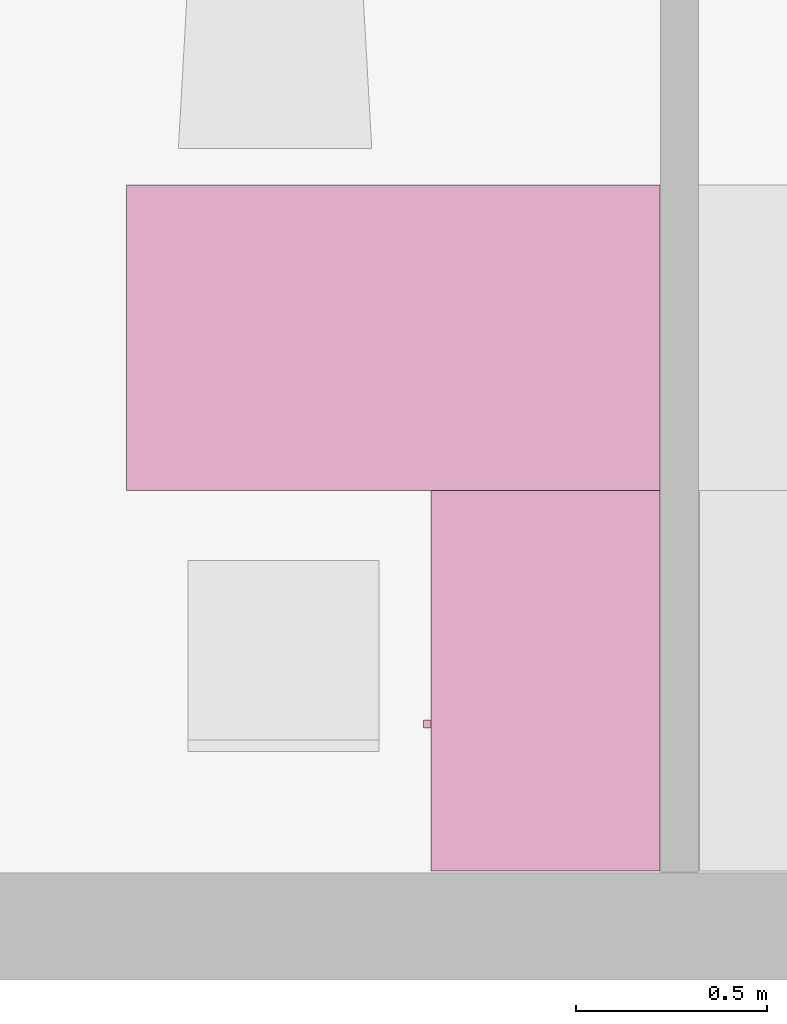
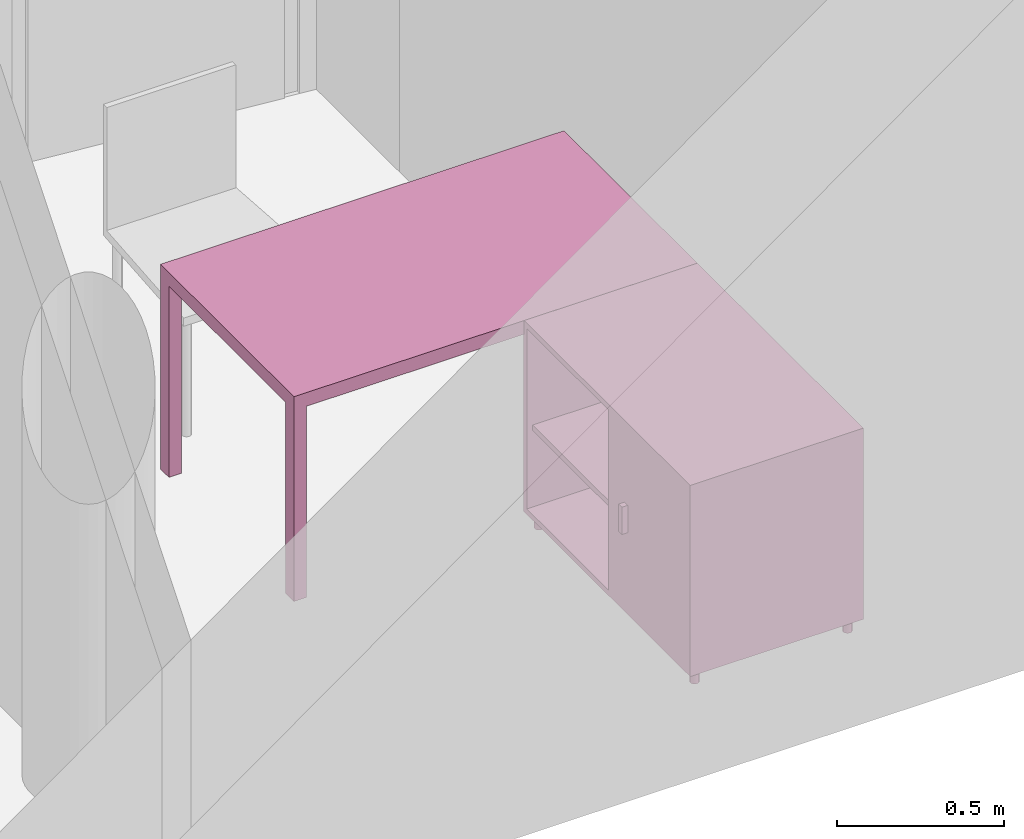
"""IFC4 building model written with IfcOpenShell, lengths in metres."""

from ifc_helpers import new_model, entity, si_unit, converted_unit, derived_unit, frame, origin, place, context, subcontext, project, spatial, faceted_brep, element, save


model = new_model("IFC4")

# Units and contexts
model_context = context("Model", 3, precision=1e-05, world=origin())
body_context = subcontext(model_context, "Body", "Model", "MODEL_VIEW")
ifc_project = project(units=[si_unit("LENGTHUNIT", "METRE"), si_unit("AREAUNIT", "SQUARE_METRE"), si_unit("VOLUMEUNIT", "CUBIC_METRE"), si_unit("MASSUNIT", "GRAM", prefix="KILO"), converted_unit("PLANEANGLEUNIT", "DEGREE", entity("IfcPlaneAngleMeasure", 0.0174532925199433), si_unit("PLANEANGLEUNIT", "RADIAN"), dimensions=[0, 0, 0, 0, 0, 0, 0]), derived_unit("THERMALTRANSMITTANCEUNIT", [(si_unit("POWERUNIT", "WATT"), 1), (si_unit("THERMODYNAMICTEMPERATUREUNIT", "KELVIN"), -1), (si_unit("LENGTHUNIT", "METRE"), -2)]), derived_unit("VOLUMETRICFLOWRATEUNIT", [(si_unit("LENGTHUNIT", "METRE"), 3), (converted_unit("TIMEUNIT", "hour", entity("IfcTimeMeasure", 3600.0), si_unit("TIMEUNIT", "SECOND"), dimensions=[0, 0, 1, 0, 0, 0, 0]), -1), (si_unit("LENGTHUNIT", "METRE"), -1)])], contexts=[model_context])

# Building, storeys
building_placement = place(None, origin())
building = spatial("IfcBuilding", under=ifc_project, at=building_placement, Name="HABITATGE PLURIFAMILIAR", CompositionType="ELEMENT")
storey_1_placement = place(building_placement, frame((0.0, 0.0, 6.25)))
storey_1 = spatial("IfcBuildingStorey", under=building, at=storey_1_placement, Name="PLANTA PRIMERA", CompositionType="ELEMENT", Elevation=6.25)
storey_2_placement = place(storey_1_placement, frame((0.0, 0.0, 3.35)))
storey_2 = spatial("IfcBuildingStorey", under=storey_1, at=storey_2_placement, Name="NOU", CompositionType="PARTIAL")

# Furniture
furniture_1_placement = place(storey_2_placement, frame((401.971734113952, 14.1227210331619, -3.35)))
element("IfcFurniture", 1, at=furniture_1_placement, inside=storey_2, Name="Taula 140X80_P1", context=body_context, shape_type="Brep", body=[
    faceted_brep([(0.04375, 0.750069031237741, 0.0), (0.04375, 0.800069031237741, 0.0), (0.0, 0.800069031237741, 0.0), (0.0, 0.750069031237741, 0.0), (0.04375, 0.800069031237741, 0.7), (0.04375, 0.750069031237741, 0.7), (0.0, 0.750069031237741, 0.7), (0.0, 0.800069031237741, 0.7)], [[[0, 1, 2, 3]], [[4, 5, 6, 7]], [[1, 0, 5, 4]], [[2, 1, 4, 7]], [[3, 2, 7, 6]], [[0, 3, 6, 5]]], orient=[[False], [False], [False], [False], [False], [False]]),
    faceted_brep([(0.04375, 0.0, 0.0), (0.04375, 0.05, 0.0), (0.0, 0.05, 0.0), (0.0, 0.0, 0.0), (0.04375, 0.05, 0.7), (0.04375, 0.0, 0.7), (0.0, 0.0, 0.7), (0.0, 0.05, 0.7)], [[[0, 1, 2, 3]], [[4, 5, 6, 7]], [[1, 0, 5, 4]], [[2, 1, 4, 7]], [[3, 2, 7, 6]], [[0, 3, 6, 5]]], orient=[[False], [False], [False], [False], [False], [False]]),
    faceted_brep([(1.39732768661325, 0.0, 0.7), (1.39732768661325, 0.800069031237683, 0.7), (0.0, 0.800069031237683, 0.7), (0.0, 0.0, 0.7), (1.39732768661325, 0.800069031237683, 0.75), (1.39732768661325, 0.0, 0.75), (0.0, 0.0, 0.75), (0.0, 0.800069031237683, 0.75)], [[[0, 1, 2, 3]], [[4, 5, 6, 7]], [[1, 0, 5, 4]], [[2, 1, 4, 7]], [[3, 2, 7, 6]], [[0, 3, 6, 5]]], orient=[[False], [False], [False], [False], [False], [False]]),
    faceted_brep([(1.39732768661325, 0.750069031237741, 0.0), (1.39732768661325, 0.800069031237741, 0.0), (1.35357768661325, 0.800069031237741, 0.0), (1.35357768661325, 0.750069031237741, 0.0), (1.39732768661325, 0.800069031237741, 0.7), (1.39732768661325, 0.750069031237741, 0.7), (1.35357768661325, 0.750069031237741, 0.7), (1.35357768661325, 0.800069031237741, 0.7)], [[[0, 1, 2, 3]], [[4, 5, 6, 7]], [[1, 0, 5, 4]], [[2, 1, 4, 7]], [[3, 2, 7, 6]], [[0, 3, 6, 5]]], orient=[[False], [False], [False], [False], [False], [False]]),
    faceted_brep([(1.39732768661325, 0.0, 0.0), (1.39732768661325, 0.05, 0.0), (1.35357768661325, 0.05, 0.0), (1.35357768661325, 0.0, 0.0), (1.39732768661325, 0.05, 0.7), (1.39732768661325, 0.0, 0.7), (1.35357768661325, 0.0, 0.7), (1.35357768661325, 0.05, 0.7)], [[[0, 1, 2, 3]], [[4, 5, 6, 7]], [[1, 0, 5, 4]], [[2, 1, 4, 7]], [[3, 2, 7, 6]], [[0, 3, 6, 5]]], orient=[[False], [False], [False], [False], [False], [False]]),
])
furniture_2_placement = place(storey_2_placement, frame((402.749061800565, 13.1267471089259, -3.35)))
element("IfcFurniture", 2, at=furniture_2_placement, inside=storey_2, Name="Taula 100X60_P1", context=body_context, shape_type="Brep", body=[
    faceted_brep([(0.620000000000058, 1.00000000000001, 0.05), (0.620000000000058, 1.00000000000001, 0.07), (0.02, 1.00000000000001, 0.07), (0.02, 1.00000000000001, 0.05), (0.02, 0.0, 0.07), (0.02, 0.0, 0.05), (0.620000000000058, 0.0, 0.07), (0.620000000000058, 0.0, 0.05)], [[[0, 1, 2, 3]], [[3, 2, 4, 5]], [[5, 4, 6, 7]], [[7, 6, 1, 0]], [[0, 3, 5, 7]], [[1, 6, 4, 2]]], orient=[[False], [False], [False], [False], [False], [False]]),
    faceted_brep([(0.04, 1.00000000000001, 0.35), (0.04, 0.0, 0.35), (0.62, 0.0, 0.35), (0.62, 1.00000000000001, 0.35), (0.62, 1.00000000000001, 0.37), (0.62, 0.0, 0.37), (0.04, 0.0, 0.37), (0.04, 1.00000000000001, 0.37)], [[[0, 1, 2, 3]], [[4, 5, 6, 7]], [[3, 4, 7, 0]], [[2, 5, 4, 3]], [[1, 6, 5, 2]], [[0, 7, 6, 1]]], orient=[[False], [False], [False], [False], [False], [False]]),
    faceted_brep([(0.04, 0.490000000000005, 0.75), (0.02, 0.490000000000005, 0.75), (0.02, 0.490000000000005, 0.05), (0.04, 0.490000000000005, 0.05), (0.02, 0.0, 0.05), (0.04, 0.0, 0.05), (0.02, 0.0, 0.75), (0.04, 0.0, 0.75)], [[[0, 1, 2, 3]], [[3, 2, 4, 5]], [[5, 4, 6, 7]], [[7, 6, 1, 0]], [[0, 3, 5, 7]], [[1, 6, 4, 2]]], orient=[[False], [False], [False], [False], [False], [False]]),
    faceted_brep([(0.62, 0.980000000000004, 0.75), (0.62, 1.0, 0.75), (0.620000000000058, 1.0, 0.0499999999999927), (0.620000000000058, 0.980000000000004, 0.0499999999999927), (0.02, 1.00000000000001, 0.05), (0.02, 0.980000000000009, 0.05), (0.02, 1.00000000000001, 0.75), (0.02, 0.980000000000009, 0.75)], [[[0, 1, 2, 3]], [[3, 2, 4, 5]], [[5, 4, 6, 7]], [[7, 6, 1, 0]], [[0, 3, 5, 7]], [[1, 6, 4, 2]]], orient=[[False], [False], [False], [False], [False], [False]]),
    faceted_brep([(0.62, 0.470000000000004, 0.75), (0.62, 0.490000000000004, 0.75), (0.620000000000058, 0.490000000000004, 0.0499999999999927), (0.620000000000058, 0.470000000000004, 0.0499999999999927), (0.02, 0.490000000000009, 0.05), (0.02, 0.470000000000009, 0.05), (0.02, 0.490000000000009, 0.75), (0.02, 0.470000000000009, 0.75)], [[[0, 1, 2, 3]], [[3, 2, 4, 5]], [[5, 4, 6, 7]], [[7, 6, 1, 0]], [[0, 3, 5, 7]], [[1, 6, 4, 2]]], orient=[[False], [False], [False], [False], [False], [False]]),
    faceted_brep([(0.620000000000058, 0.47, 0.75000000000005), (0.620000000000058, 0.490000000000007, 0.75000000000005), (0.620000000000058, 0.490000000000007, 0.0499999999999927), (0.620000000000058, 0.47, 0.0499999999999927), (0.0400000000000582, 0.490000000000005, 0.0499999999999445), (0.0400000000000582, 0.469999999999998, 0.0499999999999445), (0.04, 0.490000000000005, 0.750000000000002), (0.04, 0.469999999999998, 0.750000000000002)], [[[0, 1, 2, 3]], [[3, 2, 4, 5]], [[5, 4, 6, 7]], [[7, 6, 1, 0]], [[0, 3, 5, 7]], [[1, 6, 4, 2]]], orient=[[False], [False], [False], [False], [False], [False]]),
    faceted_brep([(0.62, 0.0, 0.75), (0.62, 0.0200000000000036, 0.75), (0.620000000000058, 0.0200000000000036, 0.0499999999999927), (0.620000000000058, 0.0, 0.0499999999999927), (0.02, 0.0200000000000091, 0.05), (0.02, 0.0, 0.05), (0.02, 0.0200000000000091, 0.75), (0.02, 0.0, 0.75)], [[[0, 1, 2, 3]], [[3, 2, 4, 5]], [[5, 4, 6, 7]], [[7, 6, 1, 0]], [[0, 3, 5, 7]], [[1, 6, 4, 2]]], orient=[[False], [False], [False], [False], [False], [False]]),
    faceted_brep([(0.620000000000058, 1.00000000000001, 0.73), (0.620000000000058, 1.00000000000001, 0.75), (0.02, 1.00000000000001, 0.75), (0.02, 1.00000000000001, 0.73), (0.02, 0.0, 0.75), (0.02, 0.0, 0.73), (0.620000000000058, 0.0, 0.75), (0.620000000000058, 0.0, 0.73)], [[[0, 1, 2, 3]], [[3, 2, 4, 5]], [[5, 4, 6, 7]], [[7, 6, 1, 0]], [[0, 3, 5, 7]], [[1, 6, 4, 2]]], orient=[[False], [False], [False], [False], [False], [False]]),
    faceted_brep([(0.62, 0.980000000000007, 0.75), (0.6, 0.980000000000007, 0.75), (0.6, 0.980000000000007, 0.05), (0.62, 0.980000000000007, 0.05), (0.6, 0.0, 0.05), (0.62, 0.0, 0.05), (0.6, 0.0, 0.75), (0.62, 0.0, 0.75)], [[[0, 1, 2, 3]], [[3, 2, 4, 5]], [[5, 4, 6, 7]], [[7, 6, 1, 0]], [[0, 3, 5, 7]], [[1, 6, 4, 2]]], orient=[[False], [False], [False], [False], [False], [False]]),
    faceted_brep([(0.02, 0.374420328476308, 0.35), (0.02, 0.394420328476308, 0.35), (0.0, 0.394420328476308, 0.35), (0.0, 0.374420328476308, 0.35), (0.02, 0.394420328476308, 0.45), (0.02, 0.374420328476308, 0.45), (0.0, 0.374420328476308, 0.45), (0.0, 0.394420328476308, 0.45)], [[[0, 1, 2, 3]], [[4, 5, 6, 7]], [[1, 0, 5, 4]], [[2, 1, 4, 7]], [[3, 2, 7, 6]], [[0, 3, 6, 5]]], orient=[[False], [False], [False], [False], [False], [False]]),
    faceted_brep([(0.583821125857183, 0.950063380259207, 0.0), (0.586415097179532, 0.950290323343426, 0.0), (0.588930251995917, 0.950964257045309, 0.0), (0.591290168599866, 0.95206470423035, 0.0), (0.59342314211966, 0.953558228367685, 0.0), (0.595264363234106, 0.955399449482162, 0.0), (0.596757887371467, 0.957532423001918, 0.0), (0.597858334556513, 0.959892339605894, 0.0), (0.598532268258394, 0.962407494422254, 0.0), (0.598759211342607, 0.96500146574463, 0.0), (0.598532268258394, 0.967595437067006, 0.0), (0.597858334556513, 0.970110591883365, 0.0), (0.596757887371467, 0.972470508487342, 0.0), (0.595264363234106, 0.974603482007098, 0.0), (0.59342314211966, 0.976444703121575, 0.0), (0.591290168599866, 0.97793822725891, 0.0), (0.588930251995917, 0.979038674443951, 0.0), (0.586415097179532, 0.979712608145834, 0.0), (0.583821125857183, 0.979939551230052, 0.0), (0.581227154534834, 0.979712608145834, 0.0), (0.578711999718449, 0.979038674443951, 0.0), (0.5763520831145, 0.97793822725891, 0.0), (0.574219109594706, 0.976444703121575, 0.0), (0.57237788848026, 0.974603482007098, 0.0), (0.570884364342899, 0.972470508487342, 0.0), (0.569783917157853, 0.970110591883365, 0.0), (0.569109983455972, 0.967595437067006, 0.0), (0.568883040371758, 0.96500146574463, 0.0), (0.569109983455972, 0.962407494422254, 0.0), (0.569783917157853, 0.959892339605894, 0.0), (0.570884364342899, 0.957532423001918, 0.0), (0.57237788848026, 0.955399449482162, 0.0), (0.574219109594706, 0.953558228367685, 0.0), (0.5763520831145, 0.95206470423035, 0.0), (0.578711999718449, 0.950964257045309, 0.0), (0.581227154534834, 0.950290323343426, 0.0), (0.583821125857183, 0.950063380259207, 0.05), (0.581227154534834, 0.950290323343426, 0.05), (0.578711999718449, 0.950964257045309, 0.05), (0.5763520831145, 0.95206470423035, 0.05), (0.574219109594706, 0.953558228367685, 0.05), (0.57237788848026, 0.955399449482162, 0.05), (0.570884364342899, 0.957532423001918, 0.05), (0.569783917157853, 0.959892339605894, 0.05), (0.569109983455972, 0.962407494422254, 0.05), (0.568883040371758, 0.96500146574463, 0.05), (0.569109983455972, 0.967595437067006, 0.05), (0.569783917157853, 0.970110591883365, 0.05), (0.570884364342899, 0.972470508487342, 0.05), (0.57237788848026, 0.974603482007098, 0.05), (0.574219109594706, 0.976444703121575, 0.05), (0.5763520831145, 0.97793822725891, 0.05), (0.578711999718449, 0.979038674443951, 0.05), (0.581227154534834, 0.979712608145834, 0.05), (0.583821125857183, 0.979939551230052, 0.05), (0.586415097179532, 0.979712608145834, 0.05), (0.588930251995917, 0.979038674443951, 0.05), (0.591290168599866, 0.97793822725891, 0.05), (0.59342314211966, 0.976444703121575, 0.05), (0.595264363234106, 0.974603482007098, 0.05), (0.596757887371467, 0.972470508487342, 0.05), (0.597858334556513, 0.970110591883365, 0.05), (0.598532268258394, 0.967595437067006, 0.05), (0.598759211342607, 0.96500146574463, 0.05), (0.598532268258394, 0.962407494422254, 0.05), (0.597858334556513, 0.959892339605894, 0.05), (0.596757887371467, 0.957532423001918, 0.05), (0.595264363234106, 0.955399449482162, 0.05), (0.59342314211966, 0.953558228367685, 0.05), (0.591290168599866, 0.95206470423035, 0.05), (0.588930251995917, 0.950964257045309, 0.05), (0.586415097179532, 0.950290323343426, 0.05)], [[[0, 1, 2, 3, 4, 5, 6, 7, 8, 9, 10, 11, 12, 13, 14, 15, 16, 17, 18, 19, 20, 21, 22, 23, 24, 25, 26, 27, 28, 29, 30, 31, 32, 33, 34, 35]], [[36, 37, 38, 39, 40, 41, 42, 43, 44, 45, 46, 47, 48, 49, 50, 51, 52, 53, 54, 55, 56, 57, 58, 59, 60, 61, 62, 63, 64, 65, 66, 67, 68, 69, 70, 71]], [[35, 37, 36, 0]], [[34, 38, 37, 35]], [[33, 39, 38, 34]], [[32, 40, 39, 33]], [[31, 41, 40, 32]], [[30, 42, 41, 31]], [[29, 43, 42, 30]], [[28, 44, 43, 29]], [[27, 45, 44, 28]], [[26, 46, 45, 27]], [[25, 47, 46, 26]], [[24, 48, 47, 25]], [[23, 49, 48, 24]], [[22, 50, 49, 23]], [[21, 51, 50, 22]], [[20, 52, 51, 21]], [[19, 53, 52, 20]], [[18, 54, 53, 19]], [[17, 55, 54, 18]], [[16, 56, 55, 17]], [[15, 57, 56, 16]], [[14, 58, 57, 15]], [[13, 59, 58, 14]], [[12, 60, 59, 13]], [[11, 61, 60, 12]], [[10, 62, 61, 11]], [[9, 63, 62, 10]], [[8, 64, 63, 9]], [[7, 65, 64, 8]], [[6, 66, 65, 7]], [[5, 67, 66, 6]], [[4, 68, 67, 5]], [[3, 69, 68, 4]], [[2, 70, 69, 3]], [[1, 71, 70, 2]], [[0, 36, 71, 1]]], orient=[[False], [False], [False], [False], [False], [False], [False], [False], [False], [False], [False], [False], [False], [False], [False], [False], [False], [False], [False], [False], [False], [False], [False], [False], [False], [False], [False], [False], [False], [False], [False], [False], [False], [False], [False], [False], [False], [False]]),
    faceted_brep([(0.0538211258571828, 0.950063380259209, 0.0), (0.0564150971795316, 0.950290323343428, 0.0), (0.0589302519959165, 0.950964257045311, 0.0), (0.0612901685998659, 0.952064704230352, 0.0), (0.06342314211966, 0.953558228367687, 0.0), (0.065264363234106, 0.955399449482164, 0.0), (0.0667578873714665, 0.95753242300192, 0.0), (0.067858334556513, 0.959892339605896, 0.0), (0.0685322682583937, 0.962407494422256, 0.0), (0.0687592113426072, 0.965001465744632, 0.0), (0.0685322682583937, 0.967595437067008, 0.0), (0.067858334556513, 0.970110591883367, 0.0), (0.0667578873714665, 0.972470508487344, 0.0), (0.065264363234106, 0.9746034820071, 0.0), (0.06342314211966, 0.976444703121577, 0.0), (0.0612901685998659, 0.977938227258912, 0.0), (0.0589302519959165, 0.979038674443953, 0.0), (0.0564150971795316, 0.979712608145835, 0.0), (0.0538211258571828, 0.979939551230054, 0.0), (0.051227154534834, 0.979712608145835, 0.0), (0.0487119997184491, 0.979038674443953, 0.0), (0.0463520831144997, 0.977938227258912, 0.0), (0.0442191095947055, 0.976444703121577, 0.0), (0.0423778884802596, 0.9746034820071, 0.0), (0.0408843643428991, 0.972470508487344, 0.0), (0.0397839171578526, 0.970110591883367, 0.0), (0.0391099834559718, 0.967595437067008, 0.0), (0.0388830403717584, 0.965001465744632, 0.0), (0.0391099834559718, 0.962407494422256, 0.0), (0.0397839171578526, 0.959892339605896, 0.0), (0.0408843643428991, 0.95753242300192, 0.0), (0.0423778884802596, 0.955399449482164, 0.0), (0.0442191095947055, 0.953558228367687, 0.0), (0.0463520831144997, 0.952064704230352, 0.0), (0.0487119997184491, 0.950964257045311, 0.0), (0.051227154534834, 0.950290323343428, 0.0), (0.0538211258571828, 0.950063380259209, 0.05), (0.051227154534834, 0.950290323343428, 0.05), (0.0487119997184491, 0.950964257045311, 0.05), (0.0463520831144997, 0.952064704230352, 0.05), (0.0442191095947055, 0.953558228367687, 0.05), (0.0423778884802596, 0.955399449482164, 0.05), (0.0408843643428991, 0.95753242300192, 0.05), (0.0397839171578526, 0.959892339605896, 0.05), (0.0391099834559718, 0.962407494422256, 0.05), (0.0388830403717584, 0.965001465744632, 0.05), (0.0391099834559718, 0.967595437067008, 0.05), (0.0397839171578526, 0.970110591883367, 0.05), (0.0408843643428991, 0.972470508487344, 0.05), (0.0423778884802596, 0.9746034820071, 0.05), (0.0442191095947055, 0.976444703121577, 0.05), (0.0463520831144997, 0.977938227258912, 0.05), (0.0487119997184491, 0.979038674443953, 0.05), (0.051227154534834, 0.979712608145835, 0.05), (0.0538211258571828, 0.979939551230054, 0.05), (0.0564150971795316, 0.979712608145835, 0.05), (0.0589302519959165, 0.979038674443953, 0.05), (0.0612901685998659, 0.977938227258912, 0.05), (0.06342314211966, 0.976444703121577, 0.05), (0.065264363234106, 0.9746034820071, 0.05), (0.0667578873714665, 0.972470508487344, 0.05), (0.067858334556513, 0.970110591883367, 0.05), (0.0685322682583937, 0.967595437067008, 0.05), (0.0687592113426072, 0.965001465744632, 0.05), (0.0685322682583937, 0.962407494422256, 0.05), (0.067858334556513, 0.959892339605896, 0.05), (0.0667578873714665, 0.95753242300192, 0.05), (0.065264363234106, 0.955399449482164, 0.05), (0.06342314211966, 0.953558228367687, 0.05), (0.0612901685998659, 0.952064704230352, 0.05), (0.0589302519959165, 0.950964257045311, 0.05), (0.0564150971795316, 0.950290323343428, 0.05)], [[[0, 1, 2, 3, 4, 5, 6, 7, 8, 9, 10, 11, 12, 13, 14, 15, 16, 17, 18, 19, 20, 21, 22, 23, 24, 25, 26, 27, 28, 29, 30, 31, 32, 33, 34, 35]], [[36, 37, 38, 39, 40, 41, 42, 43, 44, 45, 46, 47, 48, 49, 50, 51, 52, 53, 54, 55, 56, 57, 58, 59, 60, 61, 62, 63, 64, 65, 66, 67, 68, 69, 70, 71]], [[35, 37, 36, 0]], [[34, 38, 37, 35]], [[33, 39, 38, 34]], [[32, 40, 39, 33]], [[31, 41, 40, 32]], [[30, 42, 41, 31]], [[29, 43, 42, 30]], [[28, 44, 43, 29]], [[27, 45, 44, 28]], [[26, 46, 45, 27]], [[25, 47, 46, 26]], [[24, 48, 47, 25]], [[23, 49, 48, 24]], [[22, 50, 49, 23]], [[21, 51, 50, 22]], [[20, 52, 51, 21]], [[19, 53, 52, 20]], [[18, 54, 53, 19]], [[17, 55, 54, 18]], [[16, 56, 55, 17]], [[15, 57, 56, 16]], [[14, 58, 57, 15]], [[13, 59, 58, 14]], [[12, 60, 59, 13]], [[11, 61, 60, 12]], [[10, 62, 61, 11]], [[9, 63, 62, 10]], [[8, 64, 63, 9]], [[7, 65, 64, 8]], [[6, 66, 65, 7]], [[5, 67, 66, 6]], [[4, 68, 67, 5]], [[3, 69, 68, 4]], [[2, 70, 69, 3]], [[1, 71, 70, 2]], [[0, 36, 71, 1]]], orient=[[False], [False], [False], [False], [False], [False], [False], [False], [False], [False], [False], [False], [False], [False], [False], [False], [False], [False], [False], [False], [False], [False], [False], [False], [False], [False], [False], [False], [False], [False], [False], [False], [False], [False], [False], [False], [False], [False]]),
    faceted_brep([(0.0550000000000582, 0.0200170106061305, 0.0), (0.057593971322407, 0.0202439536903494, 0.0), (0.0601091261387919, 0.0209178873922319, 0.0), (0.0624690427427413, 0.022018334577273, 0.0), (0.0646020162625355, 0.023511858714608, 0.0), (0.0664432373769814, 0.0253530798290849, 0.0), (0.0679367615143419, 0.0274860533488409, 0.0), (0.0690372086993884, 0.0298459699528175, 0.0), (0.0697111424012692, 0.032361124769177, 0.0), (0.0699380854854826, 0.0349550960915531, 0.0), (0.0697111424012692, 0.0375490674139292, 0.0), (0.0690372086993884, 0.0400642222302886, 0.0), (0.0679367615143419, 0.0424241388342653, 0.0), (0.0664432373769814, 0.0445571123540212, 0.0), (0.0646020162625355, 0.0463983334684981, 0.0), (0.0624690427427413, 0.0478918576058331, 0.0), (0.0601091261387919, 0.0489923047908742, 0.0), (0.057593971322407, 0.0496662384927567, 0.0), (0.0550000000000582, 0.0498931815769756, 0.0), (0.0524060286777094, 0.0496662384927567, 0.0), (0.0498908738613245, 0.0489923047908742, 0.0), (0.0475309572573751, 0.0478918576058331, 0.0), (0.0453979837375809, 0.0463983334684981, 0.0), (0.043556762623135, 0.0445571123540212, 0.0), (0.0420632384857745, 0.0424241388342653, 0.0), (0.040962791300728, 0.0400642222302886, 0.0), (0.0402888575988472, 0.0375490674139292, 0.0), (0.0400619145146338, 0.0349550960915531, 0.0), (0.0402888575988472, 0.032361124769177, 0.0), (0.040962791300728, 0.0298459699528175, 0.0), (0.0420632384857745, 0.0274860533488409, 0.0), (0.043556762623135, 0.0253530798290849, 0.0), (0.0453979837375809, 0.023511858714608, 0.0), (0.0475309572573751, 0.022018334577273, 0.0), (0.0498908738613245, 0.0209178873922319, 0.0), (0.0524060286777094, 0.0202439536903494, 0.0), (0.0550000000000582, 0.0200170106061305, 0.05), (0.0524060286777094, 0.0202439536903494, 0.05), (0.0498908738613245, 0.0209178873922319, 0.05), (0.0475309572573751, 0.022018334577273, 0.05), (0.0453979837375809, 0.023511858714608, 0.05), (0.043556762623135, 0.0253530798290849, 0.05), (0.0420632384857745, 0.0274860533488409, 0.05), (0.040962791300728, 0.0298459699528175, 0.05), (0.0402888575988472, 0.032361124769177, 0.05), (0.0400619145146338, 0.0349550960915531, 0.05), (0.0402888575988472, 0.0375490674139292, 0.05), (0.040962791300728, 0.0400642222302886, 0.05), (0.0420632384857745, 0.0424241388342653, 0.05), (0.043556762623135, 0.0445571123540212, 0.05), (0.0453979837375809, 0.0463983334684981, 0.05), (0.0475309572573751, 0.0478918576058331, 0.05), (0.0498908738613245, 0.0489923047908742, 0.05), (0.0524060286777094, 0.0496662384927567, 0.05), (0.0550000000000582, 0.0498931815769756, 0.05), (0.057593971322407, 0.0496662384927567, 0.05), (0.0601091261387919, 0.0489923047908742, 0.05), (0.0624690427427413, 0.0478918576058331, 0.05), (0.0646020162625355, 0.0463983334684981, 0.05), (0.0664432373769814, 0.0445571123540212, 0.05), (0.0679367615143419, 0.0424241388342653, 0.05), (0.0690372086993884, 0.0400642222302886, 0.05), (0.0697111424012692, 0.0375490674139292, 0.05), (0.0699380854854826, 0.0349550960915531, 0.05), (0.0697111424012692, 0.032361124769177, 0.05), (0.0690372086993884, 0.0298459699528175, 0.05), (0.0679367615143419, 0.0274860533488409, 0.05), (0.0664432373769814, 0.0253530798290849, 0.05), (0.0646020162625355, 0.023511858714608, 0.05), (0.0624690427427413, 0.022018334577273, 0.05), (0.0601091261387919, 0.0209178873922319, 0.05), (0.057593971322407, 0.0202439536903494, 0.05)], [[[0, 1, 2, 3, 4, 5, 6, 7, 8, 9, 10, 11, 12, 13, 14, 15, 16, 17, 18, 19, 20, 21, 22, 23, 24, 25, 26, 27, 28, 29, 30, 31, 32, 33, 34, 35]], [[36, 37, 38, 39, 40, 41, 42, 43, 44, 45, 46, 47, 48, 49, 50, 51, 52, 53, 54, 55, 56, 57, 58, 59, 60, 61, 62, 63, 64, 65, 66, 67, 68, 69, 70, 71]], [[35, 37, 36, 0]], [[34, 38, 37, 35]], [[33, 39, 38, 34]], [[32, 40, 39, 33]], [[31, 41, 40, 32]], [[30, 42, 41, 31]], [[29, 43, 42, 30]], [[28, 44, 43, 29]], [[27, 45, 44, 28]], [[26, 46, 45, 27]], [[25, 47, 46, 26]], [[24, 48, 47, 25]], [[23, 49, 48, 24]], [[22, 50, 49, 23]], [[21, 51, 50, 22]], [[20, 52, 51, 21]], [[19, 53, 52, 20]], [[18, 54, 53, 19]], [[17, 55, 54, 18]], [[16, 56, 55, 17]], [[15, 57, 56, 16]], [[14, 58, 57, 15]], [[13, 59, 58, 14]], [[12, 60, 59, 13]], [[11, 61, 60, 12]], [[10, 62, 61, 11]], [[9, 63, 62, 10]], [[8, 64, 63, 9]], [[7, 65, 64, 8]], [[6, 66, 65, 7]], [[5, 67, 66, 6]], [[4, 68, 67, 5]], [[3, 69, 68, 4]], [[2, 70, 69, 3]], [[1, 71, 70, 2]], [[0, 36, 71, 1]]], orient=[[False], [False], [False], [False], [False], [False], [False], [False], [False], [False], [False], [False], [False], [False], [False], [False], [False], [False], [False], [False], [False], [False], [False], [False], [False], [False], [False], [False], [False], [False], [False], [False], [False], [False], [False], [False], [False], [False]]),
    faceted_brep([(0.585033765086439, 0.0203520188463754, 0.0), (0.587627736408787, 0.0205789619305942, 0.0), (0.590142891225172, 0.0212528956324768, 0.0), (0.592502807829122, 0.0223533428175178, 0.0), (0.594635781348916, 0.0238468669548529, 0.0), (0.596477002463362, 0.0256880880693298, 0.0), (0.597970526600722, 0.0278210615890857, 0.0), (0.599070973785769, 0.0301809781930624, 0.0), (0.59974490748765, 0.0326961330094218, 0.0), (0.599971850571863, 0.0352901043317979, 0.0), (0.59974490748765, 0.037884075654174, 0.0), (0.599070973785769, 0.0403992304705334, 0.0), (0.597970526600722, 0.0427591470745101, 0.0), (0.596477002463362, 0.0448921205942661, 0.0), (0.594635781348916, 0.046733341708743, 0.0), (0.592502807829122, 0.048226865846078, 0.0), (0.590142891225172, 0.049327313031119, 0.0), (0.587627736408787, 0.0500012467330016, 0.0), (0.585033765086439, 0.0502281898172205, 0.0), (0.58243979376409, 0.0500012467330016, 0.0), (0.579924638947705, 0.049327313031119, 0.0), (0.577564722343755, 0.048226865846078, 0.0), (0.575431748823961, 0.046733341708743, 0.0), (0.573590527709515, 0.0448921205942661, 0.0), (0.572097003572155, 0.0427591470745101, 0.0), (0.570996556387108, 0.0403992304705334, 0.0), (0.570322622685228, 0.037884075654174, 0.0), (0.570095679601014, 0.0352901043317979, 0.0), (0.570322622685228, 0.0326961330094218, 0.0), (0.570996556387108, 0.0301809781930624, 0.0), (0.572097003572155, 0.0278210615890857, 0.0), (0.573590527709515, 0.0256880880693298, 0.0), (0.575431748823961, 0.0238468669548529, 0.0), (0.577564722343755, 0.0223533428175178, 0.0), (0.579924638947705, 0.0212528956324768, 0.0), (0.58243979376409, 0.0205789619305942, 0.0), (0.585033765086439, 0.0203520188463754, 0.05), (0.58243979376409, 0.0205789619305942, 0.05), (0.579924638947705, 0.0212528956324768, 0.05), (0.577564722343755, 0.0223533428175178, 0.05), (0.575431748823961, 0.0238468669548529, 0.05), (0.573590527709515, 0.0256880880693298, 0.05), (0.572097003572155, 0.0278210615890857, 0.05), (0.570996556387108, 0.0301809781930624, 0.05), (0.570322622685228, 0.0326961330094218, 0.05), (0.570095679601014, 0.0352901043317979, 0.05), (0.570322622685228, 0.037884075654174, 0.05), (0.570996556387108, 0.0403992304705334, 0.05), (0.572097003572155, 0.0427591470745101, 0.05), (0.573590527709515, 0.0448921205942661, 0.05), (0.575431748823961, 0.046733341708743, 0.05), (0.577564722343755, 0.048226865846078, 0.05), (0.579924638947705, 0.049327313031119, 0.05), (0.58243979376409, 0.0500012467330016, 0.05), (0.585033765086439, 0.0502281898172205, 0.05), (0.587627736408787, 0.0500012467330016, 0.05), (0.590142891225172, 0.049327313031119, 0.05), (0.592502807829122, 0.048226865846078, 0.05), (0.594635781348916, 0.046733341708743, 0.05), (0.596477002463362, 0.0448921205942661, 0.05), (0.597970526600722, 0.0427591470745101, 0.05), (0.599070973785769, 0.0403992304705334, 0.05), (0.59974490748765, 0.037884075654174, 0.05), (0.599971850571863, 0.0352901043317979, 0.05), (0.59974490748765, 0.0326961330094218, 0.05), (0.599070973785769, 0.0301809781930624, 0.05), (0.597970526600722, 0.0278210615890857, 0.05), (0.596477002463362, 0.0256880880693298, 0.05), (0.594635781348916, 0.0238468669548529, 0.05), (0.592502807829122, 0.0223533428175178, 0.05), (0.590142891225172, 0.0212528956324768, 0.05), (0.587627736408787, 0.0205789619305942, 0.05)], [[[0, 1, 2, 3, 4, 5, 6, 7, 8, 9, 10, 11, 12, 13, 14, 15, 16, 17, 18, 19, 20, 21, 22, 23, 24, 25, 26, 27, 28, 29, 30, 31, 32, 33, 34, 35]], [[36, 37, 38, 39, 40, 41, 42, 43, 44, 45, 46, 47, 48, 49, 50, 51, 52, 53, 54, 55, 56, 57, 58, 59, 60, 61, 62, 63, 64, 65, 66, 67, 68, 69, 70, 71]], [[35, 37, 36, 0]], [[34, 38, 37, 35]], [[33, 39, 38, 34]], [[32, 40, 39, 33]], [[31, 41, 40, 32]], [[30, 42, 41, 31]], [[29, 43, 42, 30]], [[28, 44, 43, 29]], [[27, 45, 44, 28]], [[26, 46, 45, 27]], [[25, 47, 46, 26]], [[24, 48, 47, 25]], [[23, 49, 48, 24]], [[22, 50, 49, 23]], [[21, 51, 50, 22]], [[20, 52, 51, 21]], [[19, 53, 52, 20]], [[18, 54, 53, 19]], [[17, 55, 54, 18]], [[16, 56, 55, 17]], [[15, 57, 56, 16]], [[14, 58, 57, 15]], [[13, 59, 58, 14]], [[12, 60, 59, 13]], [[11, 61, 60, 12]], [[10, 62, 61, 11]], [[9, 63, 62, 10]], [[8, 64, 63, 9]], [[7, 65, 64, 8]], [[6, 66, 65, 7]], [[5, 67, 66, 6]], [[4, 68, 67, 5]], [[3, 69, 68, 4]], [[2, 70, 69, 3]], [[1, 71, 70, 2]], [[0, 36, 71, 1]]], orient=[[False], [False], [False], [False], [False], [False], [False], [False], [False], [False], [False], [False], [False], [False], [False], [False], [False], [False], [False], [False], [False], [False], [False], [False], [False], [False], [False], [False], [False], [False], [False], [False], [False], [False], [False], [False], [False], [False]]),
])

save(model, "model.ifc")
